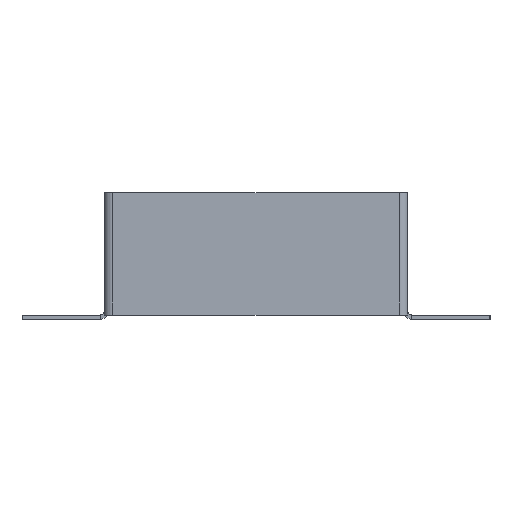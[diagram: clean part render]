
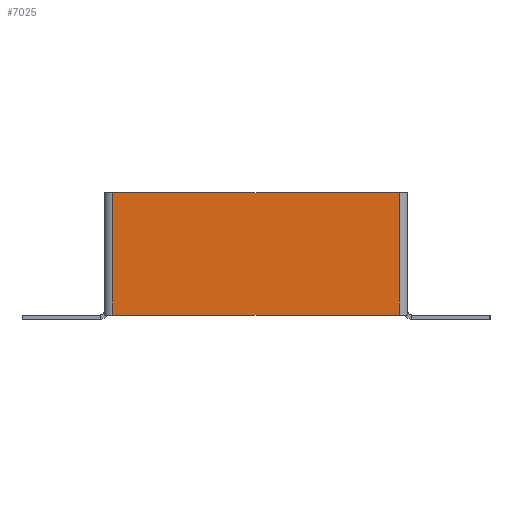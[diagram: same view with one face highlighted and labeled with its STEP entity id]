
A CAD part, front view. The second image highlights one B-rep face of the part: STEP entity #7025.
In plain terms, the highlighted planar face has unit normal (0, -1, 0).
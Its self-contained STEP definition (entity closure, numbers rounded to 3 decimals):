
#527 = AXIS2_PLACEMENT_3D ( 'NONE', #2985, #3048, #9047 ) ;
#705 = CARTESIAN_POINT ( 'NONE',  ( 68., -2., -58. ) ) ;
#938 = LINE ( 'NONE', #5940, #8765 ) ;
#1135 = CARTESIAN_POINT ( 'NONE',  ( -70., -2., 0. ) ) ;
#1253 = VECTOR ( 'NONE', #7064, 1000. ) ;
#1388 = DIRECTION ( 'NONE',  ( 0., 0., -1. ) ) ;
#2796 = LINE ( 'NONE', #5391, #6245 ) ;
#2932 = VERTEX_POINT ( 'NONE', #2950 ) ;
#2950 = CARTESIAN_POINT ( 'NONE',  ( -68., -2., -58. ) ) ;
#2985 = CARTESIAN_POINT ( 'NONE',  ( 0., -2., 0. ) ) ;
#3048 = DIRECTION ( 'NONE',  ( 0., 1., 0. ) ) ;
#3256 = EDGE_CURVE ( 'NONE', #7467, #2932, #9204, .T. ) ;
#3906 = VECTOR ( 'NONE', #4221, 1000. ) ;
#4221 = DIRECTION ( 'NONE',  ( 1., 0., 0. ) ) ;
#4858 = FACE_OUTER_BOUND ( 'NONE', #5012, .T. ) ;
#5012 = EDGE_LOOP ( 'NONE', ( #6451, #7570, #8163, #6092 ) ) ;
#5118 = CARTESIAN_POINT ( 'NONE',  ( -68., -2., 0. ) ) ;
#5211 = EDGE_CURVE ( 'NONE', #9442, #7755, #9697, .T. ) ;
#5391 = CARTESIAN_POINT ( 'NONE',  ( 68., -2., -58. ) ) ;
#5539 = CARTESIAN_POINT ( 'NONE',  ( -70., -2., -58. ) ) ;
#5940 = CARTESIAN_POINT ( 'NONE',  ( -68., -2., 0. ) ) ;
#6015 = EDGE_CURVE ( 'NONE', #9442, #2932, #938, .T. ) ;
#6092 = ORIENTED_EDGE ( 'NONE', *, *, #5211, .F. ) ;
#6222 = CARTESIAN_POINT ( 'NONE',  ( 68., -2., 0. ) ) ;
#6245 = VECTOR ( 'NONE', #6945, 1000. ) ;
#6451 = ORIENTED_EDGE ( 'NONE', *, *, #6015, .T. ) ;
#6945 = DIRECTION ( 'NONE',  ( 0., 0., 1. ) ) ;
#7025 = ADVANCED_FACE ( 'NONE', ( #4858 ), #9144, .F. ) ;
#7064 = DIRECTION ( 'NONE',  ( -1., 0., 0. ) ) ;
#7467 = VERTEX_POINT ( 'NONE', #705 ) ;
#7570 = ORIENTED_EDGE ( 'NONE', *, *, #3256, .F. ) ;
#7755 = VERTEX_POINT ( 'NONE', #6222 ) ;
#8163 = ORIENTED_EDGE ( 'NONE', *, *, #8310, .T. ) ;
#8310 = EDGE_CURVE ( 'NONE', #7467, #7755, #2796, .T. ) ;
#8765 = VECTOR ( 'NONE', #1388, 1000. ) ;
#9047 = DIRECTION ( 'NONE',  ( 0., 0., 1. ) ) ;
#9144 = PLANE ( 'NONE',  #527 ) ;
#9204 = LINE ( 'NONE', #5539, #1253 ) ;
#9442 = VERTEX_POINT ( 'NONE', #5118 ) ;
#9697 = LINE ( 'NONE', #1135, #3906 ) ;
